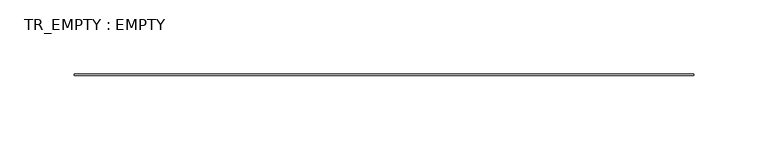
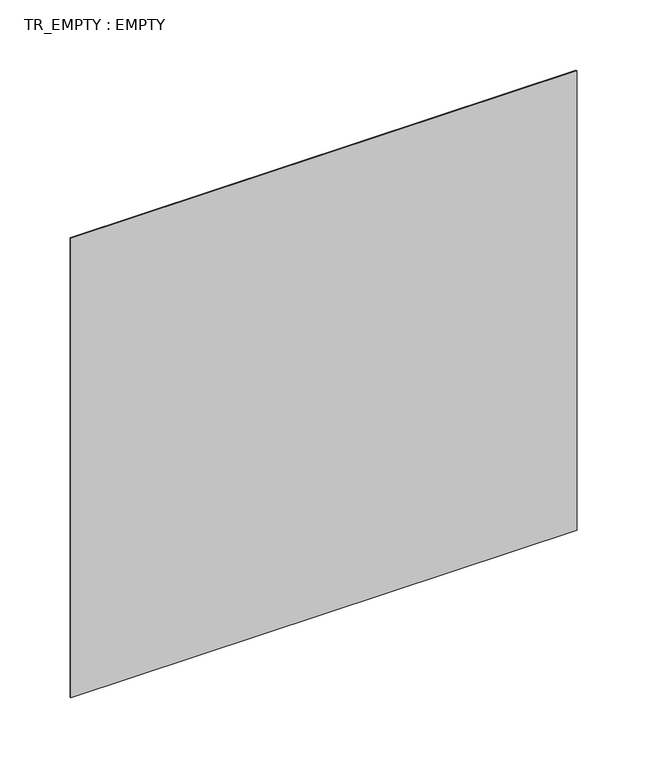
"""IFC4 building model written with IfcOpenShell, lengths in millimetres: plate geometry, TR_EMPTY : EMPTY."""

from ifc_helpers import new_model, si_unit, frame, origin, place, context, project, spatial, polyline, outline, extrude, source, transform, mapped, element, save


def tr_empty_empty_53851024(model_context):
    return source(origin(), model_context, "Body", "SweptSolid", [
        extrude(outline(polyline([(208.5, -31.0), (-208.5, -31.0), (-208.5, -30.0), (208.5, -30.0), (208.5, -31.0)])), frame((0.0, 0.0, 50.0), z_axis=(0.0, 0.0, 1.0), x_axis=(1.0, 0.0, 0.0)), (0.0, 0.0, 1.0), 400.0),
    ])


if __name__ == "__main__":
    model = new_model("IFC4")
    model_context = context("Model", 3, world=origin())
    ifc_project = project(units=[si_unit("LENGTHUNIT", "METRE", prefix="MILLI")], contexts=[model_context])
    site = spatial("IfcSite", under=ifc_project)
    building = spatial("IfcBuilding", under=site)
    placement = place(None, origin())
    tr_empty_empty_shape = tr_empty_empty_53851024(model_context)
    element("IfcPlate", 1, ObjectType="TR_EMPTY : EMPTY", at=placement, inside=building, context=model_context, shape_type="MappedRepresentation", body=[
        mapped(tr_empty_empty_shape, transform((0.0, 0.0, 0.0), x_axis=(1.0, 0.0, 0.0), y_axis=(0.0, 1.0, 0.0), z_axis=(0.0, 0.0, 1.0))),
    ])
    save(model, "model.ifc")
